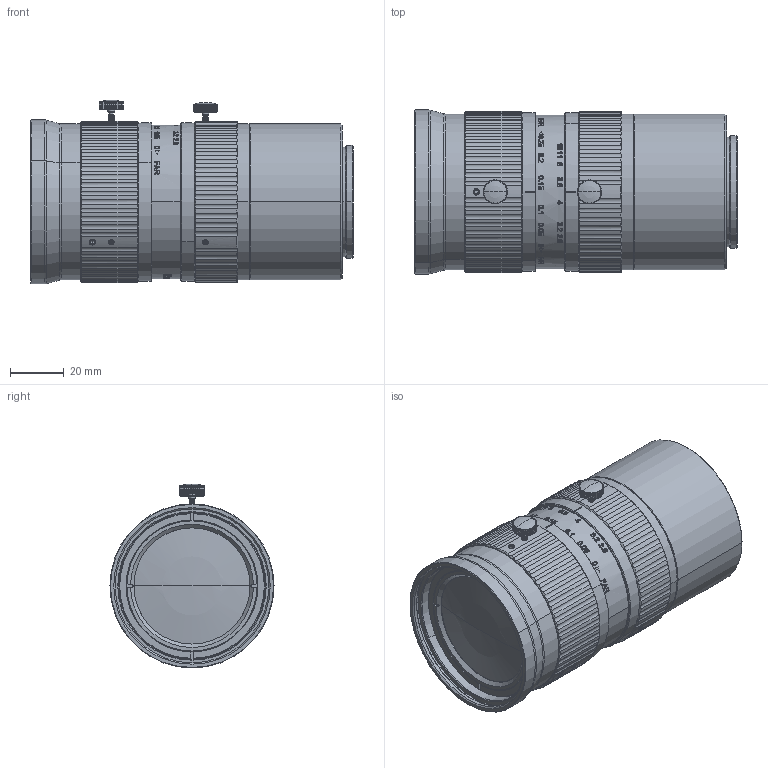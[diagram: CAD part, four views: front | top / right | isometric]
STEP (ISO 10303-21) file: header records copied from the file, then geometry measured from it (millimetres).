
FILE_DESCRIPTION((''),'2;1');
FILE_NAME('LD3502A-200-MIDDLE_ASM_ASM','2020-08-13T',('Administrator'),(''),'PRO/ENGINEER BY PARAMETRIC TECHNOLOGY CORPORATION, 2010370','PRO/ENGINEER BY PARAMETRIC TECHNOLOGY CORPORATION, 2010370','');
FILE_SCHEMA(('CONFIG_CONTROL_DESIGN'));
Length unit declared in the file: millimetre
Products named in the file (16): MSBR-89; MSBR-74; MSBR-70; MSBR-68; MSBR-59; MSBR-57; MSBR-56; MSBR-48; MSBR-11; MSBR-10; MSBR-6; MSBR-5; MSBR-4; MSBR-2; MSBR-1; LD3502A-200-MIDDLE_ASM_ASM
Assembly tree (15 placements, depth 2):
  LD3502A-200-MIDDLE_ASM_ASM
    MSBR-89
    MSBR-74
    MSBR-70
    MSBR-68
    MSBR-59
    MSBR-57
    MSBR-56
    MSBR-48
    MSBR-11
    MSBR-10
    MSBR-6
    MSBR-5
    MSBR-4
    MSBR-2
    MSBR-1
Bounding box: 120 x 61 x 68.39 mm (x, y, z)
Volume: 113367.2 mm3; surface area: 94554.2 mm2
Topology: 15 solids, 15 shells, 2236 faces, 5903 edges, 3812 vertices
Faces by surface type: bspline 736, cylinder 695, plane 495, cone 274, extrusion 16, sphere 10, torus 10
Entity records: 113659 total; most frequent: CARTESIAN_POINT 63164, ORIENTED_EDGE 11786, DIRECTION 8264, EDGE_CURVE 5893, VERTEX_POINT 3812, AXIS2_PLACEMENT_3D 3037, EDGE_LOOP 2419, FACE_OUTER_BOUND 2236
